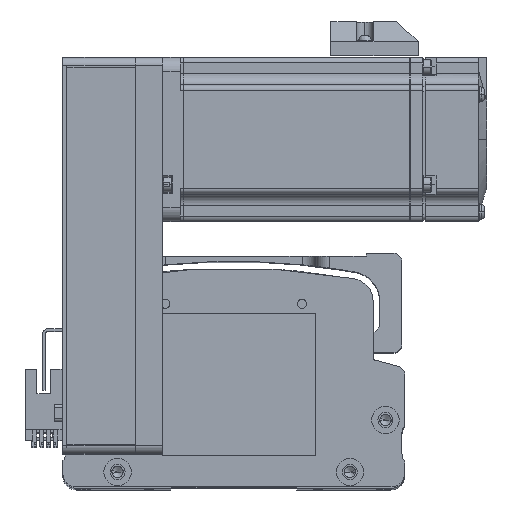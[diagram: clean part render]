
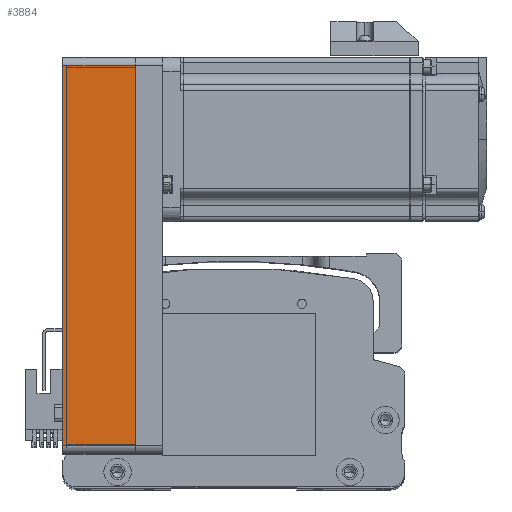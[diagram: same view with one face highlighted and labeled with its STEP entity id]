
A CAD part, top view. The second image highlights one B-rep face of the part: STEP entity #3884.
In plain terms, the highlighted planar face has unit normal (0, 0, 1) as drawn and (0, -1, 0) by its records, which use the part's own axes.
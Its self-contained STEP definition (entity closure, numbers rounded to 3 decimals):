
#2649 = VERTEX_POINT ( 'NONE', #40798 ) ;
#3884 = ADVANCED_FACE ( 'NONE', ( #25535 ), #27862, .F. ) ;
#5412 = DIRECTION ( 'NONE',  ( 1., 0., 0. ) ) ;
#9678 = VERTEX_POINT ( 'NONE', #75268 ) ;
#14370 = VECTOR ( 'NONE', #5412, 1000. ) ;
#15153 = AXIS2_PLACEMENT_3D ( 'NONE', #34345, #77629, #40623 ) ;
#17894 = EDGE_LOOP ( 'NONE', ( #51596, #21983, #47713, #60471 ) ) ;
#20675 = CARTESIAN_POINT ( 'NONE',  ( -69.5, -30., 26.5 ) ) ;
#21983 = ORIENTED_EDGE ( 'NONE', *, *, #23980, .T. ) ;
#22513 = CARTESIAN_POINT ( 'NONE',  ( -69.5, -30., 0. ) ) ;
#23980 = EDGE_CURVE ( 'NONE', #9678, #2649, #28746, .T. ) ;
#25535 = FACE_OUTER_BOUND ( 'NONE', #17894, .T. ) ;
#26417 = DIRECTION ( 'NONE',  ( 1., 0., 0. ) ) ;
#27862 = PLANE ( 'NONE',  #15153 ) ;
#28489 = CARTESIAN_POINT ( 'NONE',  ( 69.5, -30., 26.5 ) ) ;
#28746 = LINE ( 'NONE', #28489, #76154 ) ;
#34056 = EDGE_CURVE ( 'NONE', #67532, #2649, #74621, .T. ) ;
#34345 = CARTESIAN_POINT ( 'NONE',  ( 72.5, -30., 26.5 ) ) ;
#37628 = VERTEX_POINT ( 'NONE', #22513 ) ;
#37742 = EDGE_CURVE ( 'NONE', #37628, #9678, #61855, .T. ) ;
#40623 = DIRECTION ( 'NONE',  ( -1., 0., 0. ) ) ;
#40798 = CARTESIAN_POINT ( 'NONE',  ( 69.5, -30., 26.5 ) ) ;
#41729 = VECTOR ( 'NONE', #26417, 1000. ) ;
#47713 = ORIENTED_EDGE ( 'NONE', *, *, #34056, .F. ) ;
#48491 = LINE ( 'NONE', #60524, #79390 ) ;
#48778 = CARTESIAN_POINT ( 'NONE',  ( 72.5, -30., 0. ) ) ;
#51596 = ORIENTED_EDGE ( 'NONE', *, *, #37742, .T. ) ;
#56586 = EDGE_CURVE ( 'NONE', #67532, #37628, #48491, .T. ) ;
#57059 = CARTESIAN_POINT ( 'NONE',  ( 72.5, -30., 26.5 ) ) ;
#60276 = DIRECTION ( 'NONE',  ( 0., 0., -1. ) ) ;
#60471 = ORIENTED_EDGE ( 'NONE', *, *, #56586, .T. ) ;
#60524 = CARTESIAN_POINT ( 'NONE',  ( -69.5, -30., 26.5 ) ) ;
#61855 = LINE ( 'NONE', #48778, #14370 ) ;
#67532 = VERTEX_POINT ( 'NONE', #20675 ) ;
#71752 = DIRECTION ( 'NONE',  ( 0., 0., 1. ) ) ;
#74621 = LINE ( 'NONE', #57059, #41729 ) ;
#75268 = CARTESIAN_POINT ( 'NONE',  ( 69.5, -30., 0. ) ) ;
#76154 = VECTOR ( 'NONE', #71752, 1000. ) ;
#77629 = DIRECTION ( 'NONE',  ( 0., 1., 0. ) ) ;
#79390 = VECTOR ( 'NONE', #60276, 1000. ) ;
